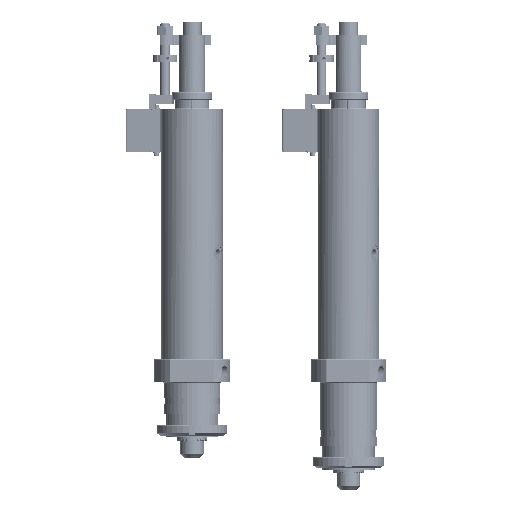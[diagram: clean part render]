
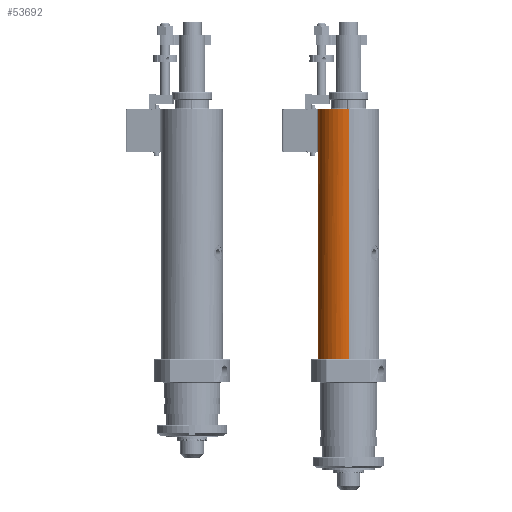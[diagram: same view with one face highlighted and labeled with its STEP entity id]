
A CAD part, left-side view. The second image highlights one B-rep face of the part: STEP entity #53692.
In plain terms, the highlighted cylindrical face has radius 32.5 mm (diameter 65 mm), a partial arc.
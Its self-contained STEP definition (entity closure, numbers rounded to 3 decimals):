
#43314 = DIRECTION ( 'NONE',  ( 0., 0., 1. ) ) ;
#43315 = CARTESIAN_POINT ( 'NONE',  ( 0., 0., 0.5 ) ) ;
#43316 = AXIS2_PLACEMENT_3D ( 'NONE', #43315, #43314, #43450 ) ;
#43328 = CIRCLE ( 'NONE', #43316, 32.5 ) ;
#43450 = DIRECTION ( 'NONE',  ( 1., 0., 0. ) ) ;
#43564 = DIRECTION ( 'NONE',  ( 1., 0., 0. ) ) ;
#43566 = DIRECTION ( 'NONE',  ( 0., 0., 1. ) ) ;
#43568 = CARTESIAN_POINT ( 'NONE',  ( 0., 0., 0.5 ) ) ;
#43570 = AXIS2_PLACEMENT_3D ( 'NONE', #43568, #43566, #43564 ) ;
#43571 = CIRCLE ( 'NONE', #43570, 32.5 ) ;
#43592 = CARTESIAN_POINT ( 'NONE',  ( 32.5, 0., 0.5 ) ) ;
#43594 = DIRECTION ( 'NONE',  ( 0., 0., 1. ) ) ;
#43596 = VECTOR ( 'NONE', #43594, 1000. ) ;
#43598 = CARTESIAN_POINT ( 'NONE',  ( 32.5, 0., 0. ) ) ;
#43599 = LINE ( 'NONE', #43598, #43596 ) ;
#43603 = CARTESIAN_POINT ( 'NONE',  ( 32.5, 0., 263.5 ) ) ;
#43605 = DIRECTION ( 'NONE',  ( 1., 0., 0. ) ) ;
#43606 = DIRECTION ( 'NONE',  ( 0., 0., -1. ) ) ;
#43608 = CARTESIAN_POINT ( 'NONE',  ( 0., 0., 263.5 ) ) ;
#43609 = AXIS2_PLACEMENT_3D ( 'NONE', #43608, #43606, #43605 ) ;
#43611 = CIRCLE ( 'NONE', #43609, 32.5 ) ;
#43615 = CARTESIAN_POINT ( 'NONE',  ( -32.5, 0., 263.5 ) ) ;
#43618 = DIRECTION ( 'NONE',  ( 0., 0., 1. ) ) ;
#43619 = VECTOR ( 'NONE', #43618, 1000. ) ;
#43621 = CARTESIAN_POINT ( 'NONE',  ( -32.5, 0., 0. ) ) ;
#43622 = LINE ( 'NONE', #43621, #43619 ) ;
#43626 = CARTESIAN_POINT ( 'NONE',  ( -32.5, 0., 0.5 ) ) ;
#43635 = CARTESIAN_POINT ( 'NONE',  ( -31.515, 7.94, 0.5 ) ) ;
#43732 = CARTESIAN_POINT ( 'NONE',  ( 31.515, 7.94, 0.5 ) ) ;
#43735 = DIRECTION ( 'NONE',  ( 1., 0., 0. ) ) ;
#43736 = DIRECTION ( 'NONE',  ( 0., 0., 1. ) ) ;
#43738 = CARTESIAN_POINT ( 'NONE',  ( 0., 0., 0.5 ) ) ;
#43739 = AXIS2_PLACEMENT_3D ( 'NONE', #43738, #43736, #43735 ) ;
#43741 = CIRCLE ( 'NONE', #43739, 32.5 ) ;
#43744 = DIRECTION ( 'NONE',  ( 1., 0., 0. ) ) ;
#43746 = DIRECTION ( 'NONE',  ( 0., 0., 1. ) ) ;
#43747 = CARTESIAN_POINT ( 'NONE',  ( 0., 0., 0. ) ) ;
#43749 = AXIS2_PLACEMENT_3D ( 'NONE', #43747, #43746, #43744 ) ;
#43751 = CYLINDRICAL_SURFACE ( 'NONE', #43749, 32.5 ) ;
#43756 = FACE_OUTER_BOUND ( 'NONE', #53609, .T. ) ;
#53609 = EDGE_LOOP ( 'NONE', ( #53610, #53666, #53669, #53672, #53675, #53678 ) ) ;
#53610 = ORIENTED_EDGE ( 'NONE', *, *, #53611, .T. ) ;
#53611 = EDGE_CURVE ( 'NONE', #53664, #53665, #43328, .T. ) ;
#53650 = EDGE_CURVE ( 'NONE', #53677, #53664, #43571, .T. ) ;
#53664 = VERTEX_POINT ( 'NONE', #43635 ) ;
#53665 = VERTEX_POINT ( 'NONE', #43626 ) ;
#53666 = ORIENTED_EDGE ( 'NONE', *, *, #53667, .T. ) ;
#53667 = EDGE_CURVE ( 'NONE', #53665, #53668, #43622, .T. ) ;
#53668 = VERTEX_POINT ( 'NONE', #43615 ) ;
#53669 = ORIENTED_EDGE ( 'NONE', *, *, #53670, .T. ) ;
#53670 = EDGE_CURVE ( 'NONE', #53668, #53671, #43611, .T. ) ;
#53671 = VERTEX_POINT ( 'NONE', #43603 ) ;
#53672 = ORIENTED_EDGE ( 'NONE', *, *, #53673, .F. ) ;
#53673 = EDGE_CURVE ( 'NONE', #53674, #53671, #43599, .T. ) ;
#53674 = VERTEX_POINT ( 'NONE', #43592 ) ;
#53675 = ORIENTED_EDGE ( 'NONE', *, *, #53676, .T. ) ;
#53676 = EDGE_CURVE ( 'NONE', #53674, #53677, #43741, .T. ) ;
#53677 = VERTEX_POINT ( 'NONE', #43732 ) ;
#53678 = ORIENTED_EDGE ( 'NONE', *, *, #53650, .T. ) ;
#53692 = ADVANCED_FACE ( 'NONE', ( #43756 ), #43751, .T. ) ;
